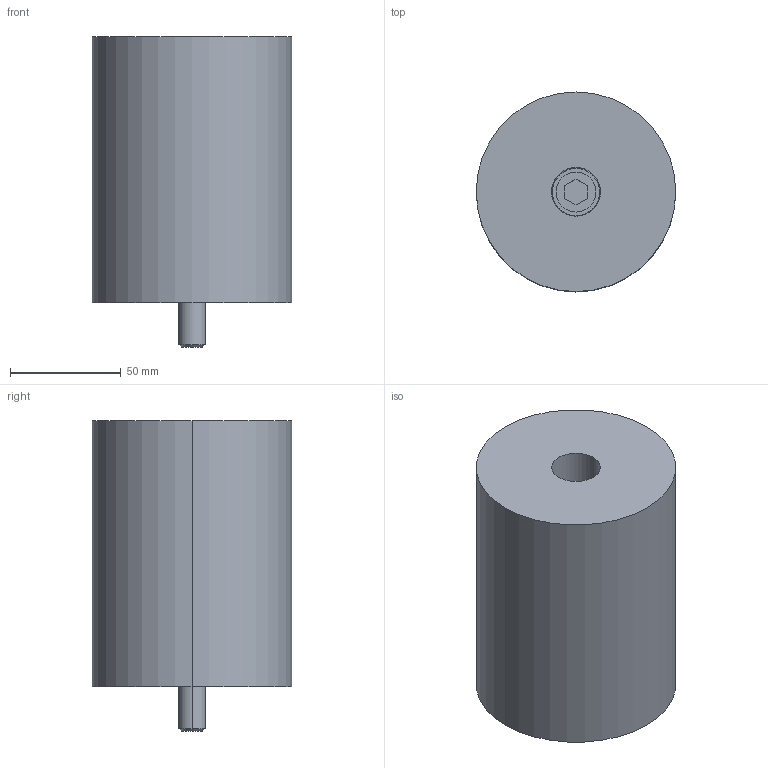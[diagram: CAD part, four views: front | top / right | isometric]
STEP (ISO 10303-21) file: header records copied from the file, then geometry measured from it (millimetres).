
FILE_DESCRIPTION(/* description */ (''),/* implementation_level */ '2;1');
FILE_NAME(/* name */ '3d_esbt90-120_07013_r00.stp',/* time_stamp */ '2011-01-10T14:15:39+09:00',/* author */ ('MISUMI'),/* organization */ (''),/* preprocessor_version */ 'ST-DEVELOPER v11',/* originating_system */ 'UGS - NX 5.0',/* authorisation */ '');
FILE_SCHEMA (('CONFIG_CONTROL_DESIGN'));
Length unit declared in the file: millimetre
Products named in the file (1): 3d_esbt90-120_07013_r00
Bounding box: 90 x 90 x 140 mm (x, y, z)
Volume: 737428.3 mm3; surface area: 62329.5 mm2
Topology: 3 solids, 3 shells, 35 faces, 72 edges, 46 vertices
Faces by surface type: plane 15, cylinder 14, cone 6
Entity records: 1022 total; most frequent: DIRECTION 178, CARTESIAN_POINT 154, ORIENTED_EDGE 144, EDGE_CURVE 72, AXIS2_PLACEMENT_3D 70, VERTEX_POINT 46, EDGE_LOOP 42, LINE 38
